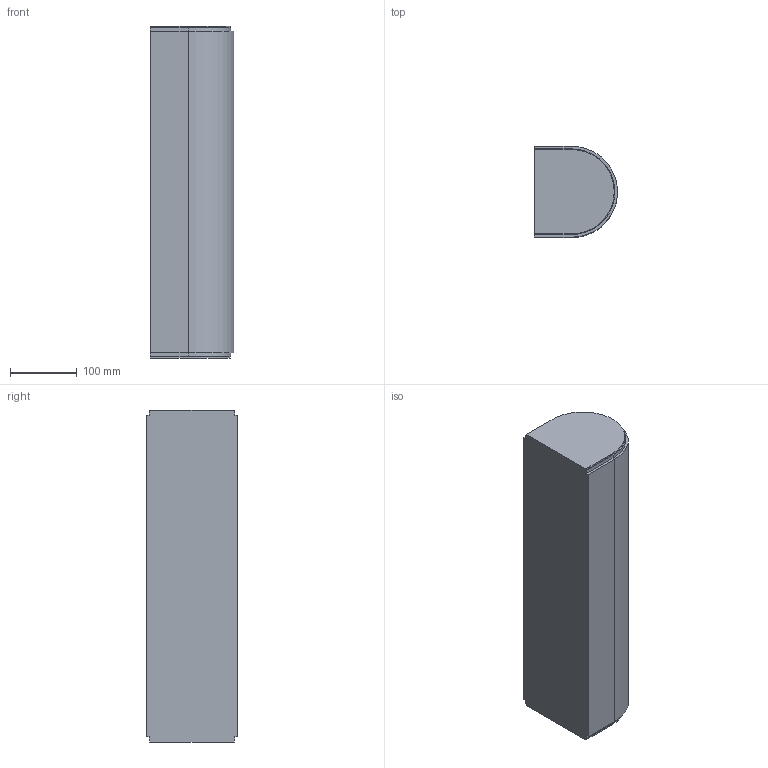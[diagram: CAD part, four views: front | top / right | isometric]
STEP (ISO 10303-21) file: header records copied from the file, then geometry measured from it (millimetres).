
FILE_DESCRIPTION (( 'STEP AP214' ), '1' );
FILE_NAME ('FS-MTC2-150-INOX Aandrijving & omloop.500 omloop.STEP', '2017-02-08T12:38:34', ( '' ), ( '' ), 'SwSTEP 2.0', 'SolidWorks 2016', '' );
FILE_SCHEMA (( 'AUTOMOTIVE_DESIGN' ));
Length unit declared in the file: millimetre
Products named in the file (1): FS-MTC2-150-INOX Aandrijving & omloop.500 omloop
Bounding box: 125 x 136.5 x 499 mm (x, y, z)
Volume: 7493890.1 mm3; surface area: 261505.9 mm2
Topology: 1 solids, 1 shells, 22 faces, 60 edges, 40 vertices
Faces by surface type: plane 17, cylinder 5
Entity records: 728 total; most frequent: CARTESIAN_POINT 123, ORIENTED_EDGE 120, DIRECTION 116, EDGE_CURVE 60, LINE 50, VECTOR 50, VERTEX_POINT 40, AXIS2_PLACEMENT_3D 33
